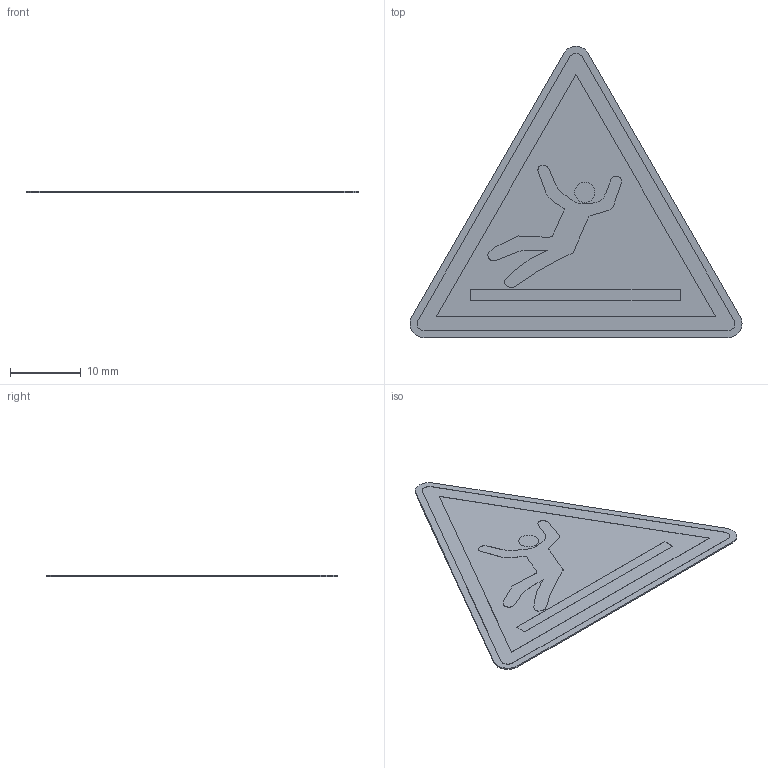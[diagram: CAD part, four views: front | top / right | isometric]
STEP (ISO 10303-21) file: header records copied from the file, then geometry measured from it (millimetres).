
FILE_DESCRIPTION (( 'STEP AP214' ), '1' );
FILE_NAME ('W011_Warnung vor Rutschgefahr.STEP', '2022-02-22T08:13:30', ( '' ), ( '' ), 'SwSTEP 2.0', 'SolidWorks 2021', '' );
FILE_SCHEMA (( 'AUTOMOTIVE_DESIGN' ));
Length unit declared in the file: millimetre
Products named in the file (1): W011_Warnung vor Rutschgefahr
Bounding box: 47.07 x 41.3 x 0.22 mm (x, y, z)
Volume: 221.3 mm3; surface area: 2161.4 mm2
Topology: 1 solids, 1 shells, 32 faces, 75 edges, 50 vertices
Faces by surface type: plane 20, cylinder 10, bspline 2
Entity records: 1587 total; most frequent: CARTESIAN_POINT 564, DIRECTION 153, ORIENTED_EDGE 150, EDGE_CURVE 75, AXIS2_PLACEMENT_3D 51, VECTOR 51, LINE 51, VERTEX_POINT 50
